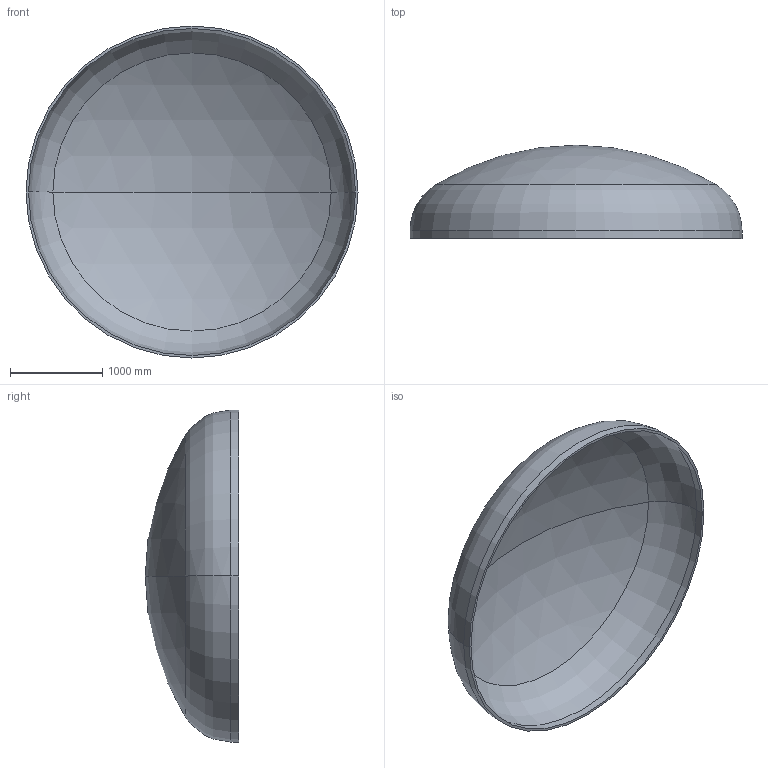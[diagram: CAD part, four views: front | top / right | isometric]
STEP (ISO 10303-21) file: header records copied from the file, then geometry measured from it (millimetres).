
FILE_DESCRIPTION (( 'STEP AP203' ), '1' );
FILE_NAME ('DIN 28013 Korbbogenform_-_Boden DIN 28013 - 3600 x 85 - I - s=27.step', '2016-07-01T20:15:52', ( '' ), ( '' ), 'SwSTEP 2.0', 'SolidWorks 2013', '' );
FILE_SCHEMA (( 'CONFIG_CONTROL_DESIGN' ));
Length unit declared in the file: millimetre
Products named in the file (1): DIN 28013 Korbbogenform_-_Boden DIN 28013 - 3600 x 85 - I - s=27
Bounding box: 3600 x 1011.57 x 3600 mm (x, y, z)
Volume: 402719015.2 mm3; surface area: 30135626.2 mm2
Topology: 1 solids, 1 shells, 13 faces, 24 edges, 14 vertices
Faces by surface type: torus 4, cylinder 4, sphere 4, plane 1
Entity records: 407 total; most frequent: DIRECTION 72, CARTESIAN_POINT 52, ORIENTED_EDGE 48, AXIS2_PLACEMENT_3D 34, EDGE_CURVE 24, CIRCLE 20, VERTEX_POINT 14, EDGE_LOOP 14
